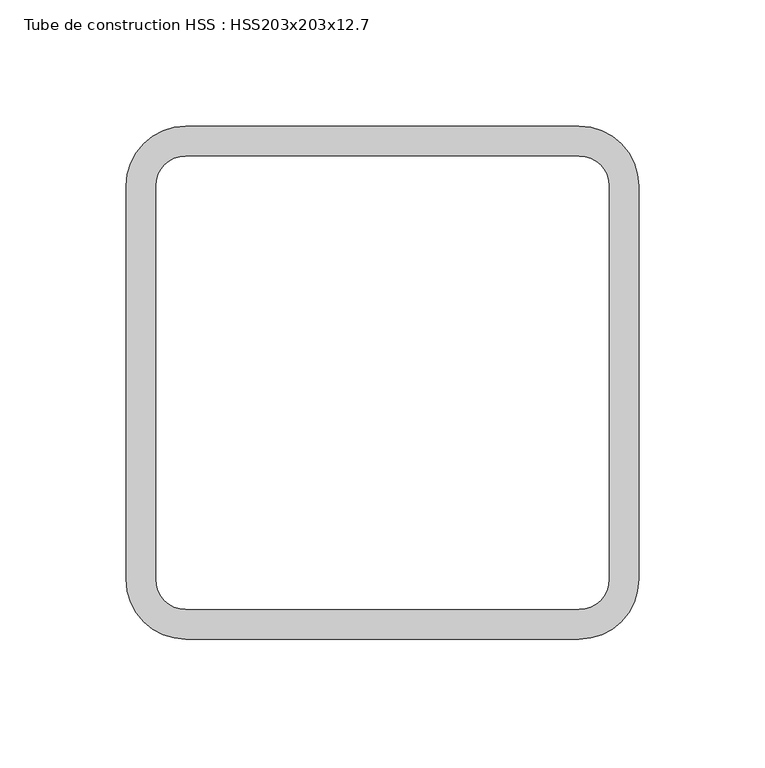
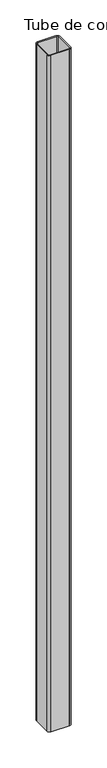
"""IFC4 building model written with IfcOpenShell, lengths in millimetres: column geometry, Tube de construction HSS : HSS203x203x12.7."""

import ifcopenshell
import ifcopenshell.guid

model = None  # the IFC model being written
_history = None  # IfcOwnerHistory: only IFC2X3 demands one
_inside = {}  # id of a spatial element -> (the spatial element, [elements in it])
_under = {}  # id of a project, library or spatial element -> (it, [spatial elements below it])
_declared = {}  # id of a project -> (the project, [libraries it declares])
_typed = {}  # id of a type object -> (the type object, [elements of that type])
_made_of = {}  # id of a material, layer set ... -> (it, [elements and type objects made of it])


def new_model(schema):
    """Start an empty IFC model of exactly this schema.

    Asked for "IFC4X3", IfcOpenShell would pick the latest addendum, in which some entities
    have other attributes; the version numbers below select the first issue.
    IFC2X3 requires an IfcOwnerHistory on every rooted entity: one is made here for all.
    """
    global model, _history
    if schema == "IFC4X3":
        model = ifcopenshell.file(schema_version=(4, 3, 0, 0))
    else:
        model = ifcopenshell.file(schema=schema)
    _inside.clear()
    _under.clear()
    _declared.clear()
    _typed.clear()
    _made_of.clear()
    _history = None
    if model.schema == "IFC2X3":
        org = make("IfcOrganization", Name="unknown")
        user = make(
            "IfcPersonAndOrganization",
            ThePerson=make("IfcPerson", FamilyName="unknown"),
            TheOrganization=org,
        )
        app = make(
            "IfcApplication",
            ApplicationDeveloper=org,
            Version="unknown",
            ApplicationFullName="unknown",
            ApplicationIdentifier="unknown",
        )
        _history = make(
            "IfcOwnerHistory",
            OwningUser=user,
            OwningApplication=app,
            ChangeAction="ADDED",
            CreationDate=0,
        )
    return model


def make(cls, **values):
    """One entity of the class cls with the attributes given. An attribute that is None is left unset."""
    return model.create_entity(
        cls, **{name: value for name, value in values.items() if value is not None}
    )


def rooted(cls, **values):
    """An entity with a GlobalId (a new one), such as an element, a storey or a relation."""
    return make(cls, GlobalId=ifcopenshell.guid.new(), OwnerHistory=_history, **values)


def si_unit(unit_type, name, prefix=None):
    """IfcSIUnit, for example si_unit("LENGTHUNIT", "METRE", prefix="MILLI")."""
    return make("IfcSIUnit", UnitType=unit_type, Prefix=prefix, Name=name)


def assignment(units):
    """IfcUnitAssignment: the units of a project."""
    return None if units is None else make("IfcUnitAssignment", Units=units)


def point(xyz):
    """IfcCartesianPoint."""
    return None if xyz is None else make("IfcCartesianPoint", Coordinates=xyz)


def direction(xyz):
    """IfcDirection."""
    return None if xyz is None else make("IfcDirection", DirectionRatios=xyz)


def frame(location, z_axis=None, x_axis=None):
    """IfcAxis2Placement3D, a coordinate frame: its origin and axes. An axis left out is left unset."""
    return make(
        "IfcAxis2Placement3D",
        Location=point(location),
        Axis=direction(z_axis),
        RefDirection=direction(x_axis),
    )


def frame_2d(location, x_axis=None):
    """IfcAxis2Placement2D, a coordinate frame in the plane: its origin and x axis."""
    return make(
        "IfcAxis2Placement2D", Location=point(location), RefDirection=direction(x_axis)
    )


def origin():
    """The frame at (0, 0, 0) with its axes left unset."""
    return frame((0.0, 0.0, 0.0))


def origin_with_axes():
    """The frame at (0, 0, 0) with the z axis (0, 0, 1) and the x axis (1, 0, 0) written out."""
    return frame((0.0, 0.0, 0.0), z_axis=(0.0, 0.0, 1.0), x_axis=(1.0, 0.0, 0.0))


def place(relative_to, where):
    """IfcLocalPlacement: puts the frame where relative to a parent placement (None: the world)."""
    return make(
        "IfcLocalPlacement", PlacementRelTo=relative_to, RelativePlacement=where
    )


def context(
    kind, dimensions, precision=None, world=None, true_north=None, identifier=None
):
    """IfcGeometricRepresentationContext, for example the 3D "Model" context."""
    return make(
        "IfcGeometricRepresentationContext",
        ContextIdentifier=identifier,
        ContextType=kind,
        CoordinateSpaceDimension=dimensions,
        Precision=precision,
        WorldCoordinateSystem=world,
        TrueNorth=true_north,
    )


def project(units=None, contexts=None):
    """IfcProject with its units and contexts."""
    return rooted(
        "IfcProject",
        Name="project",
        RepresentationContexts=contexts,
        UnitsInContext=assignment(units),
    )


def spatial(cls, under=None, at=None, **own):
    """A site, building, storey or space (cls), placed at a placement, below another one or the project."""
    s = rooted(cls, ObjectPlacement=at, **own)
    if under is not None:
        _under.setdefault(under.id(), (under, []))[1].append(s)
    return s


def polyline(points):
    """IfcPolyline through the points."""
    return make("IfcPolyline", Points=[point(p) for p in points])


def circle_curve(where, radius):
    """IfcCircle in the frame where."""
    return make("IfcCircle", Position=where, Radius=radius)


def trimmed(basis, trim1, trim2, sense, master):
    """IfcTrimmedCurve: the piece of a basis curve between two trims."""
    return make(
        "IfcTrimmedCurve",
        BasisCurve=basis,
        Trim1=trim1,
        Trim2=trim2,
        SenseAgreement=sense,
        MasterRepresentation=master,
    )


def segment(curve, same_sense, transition):
    """IfcCompositeCurveSegment."""
    return make(
        "IfcCompositeCurveSegment",
        Transition=transition,
        SameSense=same_sense,
        ParentCurve=curve,
    )


def composite_curve(segments, self_intersect=None):
    """IfcCompositeCurve: segments joined end to end."""
    return make("IfcCompositeCurve", Segments=segments, SelfIntersect=self_intersect)


def outline(outer, holes=None, kind="AREA"):
    """IfcArbitraryClosedProfileDef: a profile drawn as a closed curve; with holes, ...WithVoids."""
    if holes is None:
        return make("IfcArbitraryClosedProfileDef", ProfileType=kind, OuterCurve=outer)
    return make(
        "IfcArbitraryProfileDefWithVoids",
        ProfileType=kind,
        OuterCurve=outer,
        InnerCurves=holes,
    )


def extrude(swept, where, along, depth):
    """IfcExtrudedAreaSolid: the profile swept, set in the frame where, extruded along a direction by depth."""
    return make(
        "IfcExtrudedAreaSolid",
        SweptArea=swept,
        Position=where,
        ExtrudedDirection=direction(along),
        Depth=depth,
    )


def shape(context_of_items, identifier, shape_type, items):
    """IfcShapeRepresentation: the items that make up one representation, for example the "Body"."""
    return make(
        "IfcShapeRepresentation",
        ContextOfItems=context_of_items,
        RepresentationIdentifier=identifier,
        RepresentationType=shape_type,
        Items=items,
    )


def source(mapping_origin, context_of_items, identifier, shape_type, items):
    """IfcRepresentationMap: a shape defined once, which mapped items show again and again."""
    return make(
        "IfcRepresentationMap",
        MappingOrigin=mapping_origin,
        MappedRepresentation=shape(context_of_items, identifier, shape_type, items),
    )


def transform(
    local_origin,
    x_axis=None,
    y_axis=None,
    z_axis=None,
    scale=None,
    scale2=None,
    scale3=None,
    uniform=True,
):
    """IfcCartesianTransformationOperator3D, or its non-uniform kind. x_axis, y_axis, z_axis: its Axis1, 2, 3."""
    if uniform:
        return make(
            "IfcCartesianTransformationOperator3D",
            Axis1=direction(x_axis),
            Axis2=direction(y_axis),
            LocalOrigin=point(local_origin),
            Scale=scale,
            Axis3=direction(z_axis),
        )
    return make(
        "IfcCartesianTransformationOperator3DnonUniform",
        Axis1=direction(x_axis),
        Axis2=direction(y_axis),
        LocalOrigin=point(local_origin),
        Scale=scale,
        Axis3=direction(z_axis),
        Scale2=scale2,
        Scale3=scale3,
    )


def mapped(mapping_source, mapping_target):
    """IfcMappedItem: shows the shape of a source again, moved by a transform."""
    return make(
        "IfcMappedItem", MappingSource=mapping_source, MappingTarget=mapping_target
    )


def made_of(thing, what):
    """Note that an element or type object is made of a material, layer set ...; save() writes the relation."""
    if what is not None:
        _made_of.setdefault(what.id(), (what, []))[1].append(thing)
    return thing


def element(
    cls,
    number,
    at=None,
    inside=None,
    cuts=None,
    type_object=None,
    material=None,
    context=None,
    identifier="Body",
    shape_type=None,
    held_by="IfcProductDefinitionShape",
    body=None,
    shapes=None,
    **own,
):
    """One element of the class cls, such as IfcWall. Its Tag is "e" and its number.

    at: its placement. inside: the storey or other place that contains it. cuts: it is an
    opening in that element (IfcRelVoidsElement). A single representation is given by context,
    identifier, shape_type and body (its items); several are given by shapes. held_by: the class
    of the entity that holds the representations. save() writes the other relations.
    """
    e = rooted(cls, Tag="e%d" % number, ObjectPlacement=at, **own)
    if body is not None:
        shapes = [shape(context, identifier, shape_type, body)]
    if shapes is not None:
        e.Representation = make(held_by, Representations=shapes)
    if inside is not None:
        _inside.setdefault(inside.id(), (inside, []))[1].append(e)
    if cuts is not None:
        rooted(
            "IfcRelVoidsElement", RelatingBuildingElement=cuts, RelatedOpeningElement=e
        )
    if type_object is not None:
        _typed.setdefault(type_object.id(), (type_object, []))[1].append(e)
    return made_of(e, material)


def aggregate(whole, parts):
    """IfcRelAggregates: a whole, such as a stair, and the parts it consists of."""
    return rooted("IfcRelAggregates", RelatingObject=whole, RelatedObjects=parts)


def save(model, path):
    """Write the relations noted so far, then the file.

    IfcRelAggregates (storeys below a building ...), IfcRelContainedInSpatialStructure (elements
    in a storey), IfcRelDefinesByType, IfcRelAssociatesMaterial and IfcRelDeclares: one each for
    every whole, place, type object, material and project.
    """
    for whole, parts in _under.values():
        aggregate(whole, parts)
    for where, things in _inside.values():
        rooted(
            "IfcRelContainedInSpatialStructure",
            RelatedElements=things,
            RelatingStructure=where,
        )
    for kind, things in _typed.values():
        rooted("IfcRelDefinesByType", RelatedObjects=things, RelatingType=kind)
    for what, things in _made_of.values():
        rooted("IfcRelAssociatesMaterial", RelatedObjects=things, RelatingMaterial=what)
    for by, libraries in _declared.values():
        rooted("IfcRelDeclares", RelatingContext=by, RelatedDefinitions=libraries)
    model.write(path)


def tube_de_construction_hss_hss203x203x12_7_c158f98a(model_context):
    return source(origin(), model_context, "Body", "SweptSolid", [
        extrude(outline(composite_curve([segment(trimmed(circle_curve(frame_2d((77.978, 77.978)), 23.622), [point((77.978, 101.6))], [point((101.6, 77.978))], False, "CARTESIAN"), True, "CONTINUOUS"), segment(polyline([(101.6, 77.978), (101.6, -77.978)]), True, "CONTINUOUS"), segment(trimmed(circle_curve(frame_2d((77.978, -77.978)), 23.622), [point((101.6, -77.978))], [point((77.978, -101.6))], False, "CARTESIAN"), True, "CONTINUOUS"), segment(polyline([(77.978, -101.6), (-77.978, -101.6)]), True, "CONTINUOUS"), segment(trimmed(circle_curve(frame_2d((-77.978, -77.978)), 23.622), [point((-77.978, -101.6))], [point((-101.6, -77.978))], False, "CARTESIAN"), True, "CONTINUOUS"), segment(polyline([(-101.6, -77.978), (-101.6, 77.978)]), True, "CONTINUOUS"), segment(trimmed(circle_curve(frame_2d((-77.978, 77.978)), 23.622), [point((-101.6, 77.978))], [point((-77.978, 101.6))], False, "CARTESIAN"), True, "CONTINUOUS"), segment(polyline([(-77.978, 101.6), (77.978, 101.6)]), True, "CONTINUOUS")], self_intersect=False), holes=[composite_curve([segment(polyline([(77.978, 89.789), (-77.978, 89.789)]), True, "CONTINUOUS"), segment(trimmed(circle_curve(frame_2d((-77.978, 77.978)), 11.811), [point((-77.978, 89.789))], [point((-89.789, 77.978))], True, "CARTESIAN"), True, "CONTINUOUS"), segment(polyline([(-89.789, 77.978), (-89.789, -77.978)]), True, "CONTINUOUS"), segment(trimmed(circle_curve(frame_2d((-77.978, -77.978)), 11.811), [point((-89.789, -77.978))], [point((-77.978, -89.789))], True, "CARTESIAN"), True, "CONTINUOUS"), segment(polyline([(-77.978, -89.789), (77.978, -89.789)]), True, "CONTINUOUS"), segment(trimmed(circle_curve(frame_2d((77.978, -77.978)), 11.811), [point((77.978, -89.789))], [point((89.789, -77.978))], True, "CARTESIAN"), True, "CONTINUOUS"), segment(polyline([(89.789, -77.978), (89.789, 77.978)]), True, "CONTINUOUS"), segment(trimmed(circle_curve(frame_2d((77.978, 77.978)), 11.811), [point((89.789, 77.978))], [point((77.978, 89.789))], True, "CARTESIAN"), True, "CONTINUOUS")], self_intersect=False)]), origin_with_axes(), (0.0, 0.0, 1.0), 6120.0),
    ])


if __name__ == "__main__":
    model = new_model("IFC4")
    model_context = context("Model", 3, world=origin())
    ifc_project = project(units=[si_unit("LENGTHUNIT", "METRE", prefix="MILLI")], contexts=[model_context])
    site = spatial("IfcSite", under=ifc_project)
    building = spatial("IfcBuilding", under=site)
    placement = place(None, origin())
    tube_de_construction_hss_hss203x203x12_7_shape = tube_de_construction_hss_hss203x203x12_7_c158f98a(model_context)
    element("IfcColumn", 1, ObjectType="Tube de construction HSS : HSS203x203x12.7", at=placement, inside=building, context=model_context, shape_type="MappedRepresentation", body=[
        mapped(tube_de_construction_hss_hss203x203x12_7_shape, transform((0.0, 0.0, 0.0), x_axis=(1.0, 0.0, 0.0), y_axis=(0.0, 1.0, 0.0), z_axis=(0.0, 0.0, 1.0))),
    ])
    save(model, "model.ifc")
